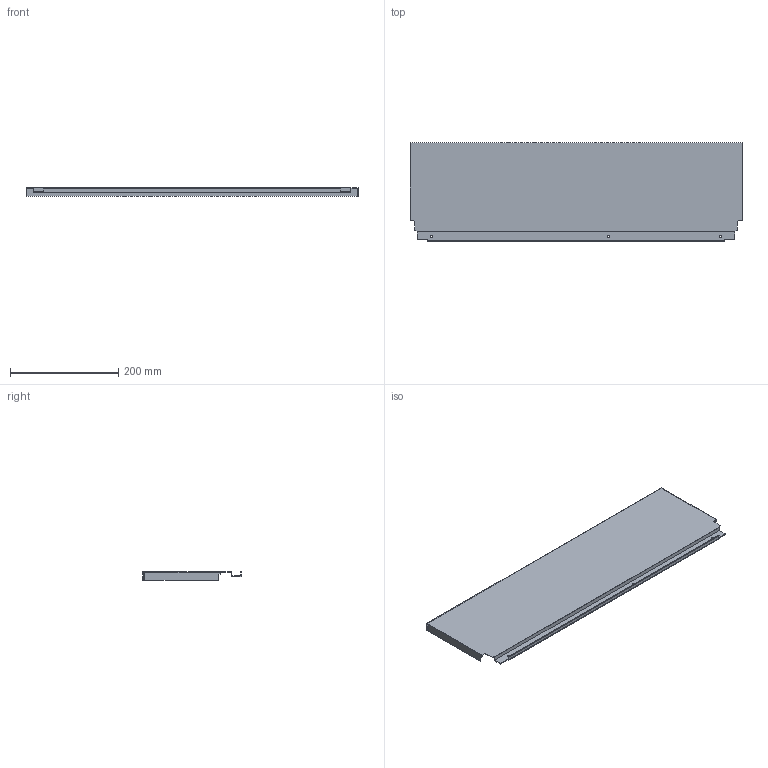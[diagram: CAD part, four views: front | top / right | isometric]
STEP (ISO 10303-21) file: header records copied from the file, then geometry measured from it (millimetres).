
FILE_DESCRIPTION (( 'STEP AP214' ), '1' );
FILE_NAME ('_DWD_XP Stahlrückwand_H182_KAB700_S18.step', '2010-07-08T12:57:57', ( 'grass' ), ( '' ), 'SwSTEP 2.0', 'SolidWorks 2010', '' );
FILE_SCHEMA (( 'AUTOMOTIVE_DESIGN' ));
Length unit declared in the file: millimetre
Products named in the file (1): _DWD_XP Stahlrückwand_H182_KAB700_S18
Bounding box: 613 x 182.49 x 16 mm (x, y, z)
Volume: 115373.4 mm3; surface area: 267325.8 mm2
Topology: 1 solids, 1 shells, 46 faces, 132 edges, 88 vertices
Faces by surface type: plane 40, cylinder 6
Entity records: 1534 total; most frequent: CARTESIAN_POINT 267, ORIENTED_EDGE 264, DIRECTION 238, EDGE_CURVE 132, LINE 120, VECTOR 120, VERTEX_POINT 88, AXIS2_PLACEMENT_3D 59
